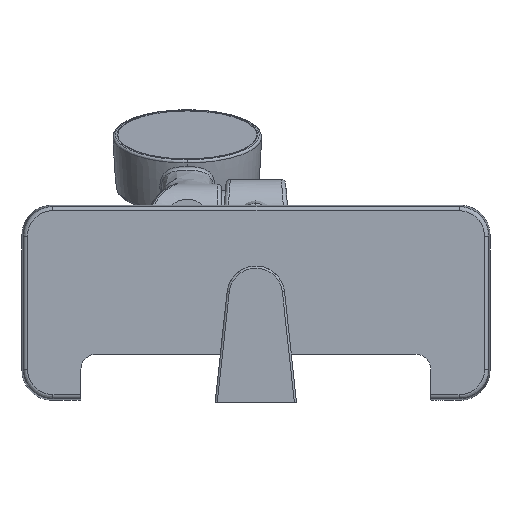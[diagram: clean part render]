
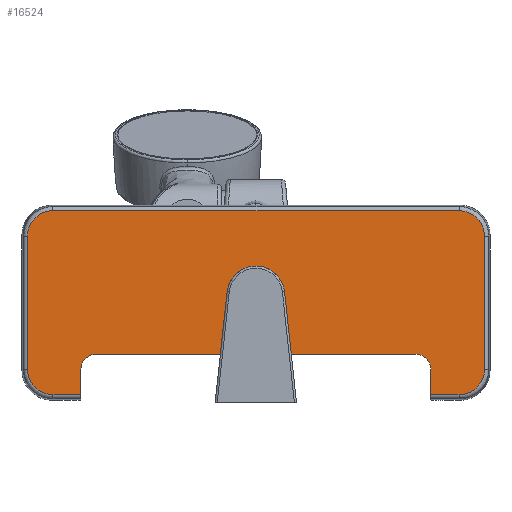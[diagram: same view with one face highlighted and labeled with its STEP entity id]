
A CAD part, front view. The second image highlights one B-rep face of the part: STEP entity #16524.
In plain terms, the highlighted planar face has unit normal (0, -1, 0).
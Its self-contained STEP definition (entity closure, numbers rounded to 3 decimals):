
#167 = DIRECTION ( 'NONE',  ( 1., 0., 0. ) ) ;
#333 = CIRCLE ( 'NONE', #15864, 7. ) ;
#839 = LINE ( 'NONE', #11197, #17612 ) ;
#1121 = VERTEX_POINT ( 'NONE', #5799 ) ;
#1234 = VERTEX_POINT ( 'NONE', #5609 ) ;
#1520 = DIRECTION ( 'NONE',  ( 0., 0., -1. ) ) ;
#2239 = AXIS2_PLACEMENT_3D ( 'NONE', #2681, #15534, #4513 ) ;
#2331 = ORIENTED_EDGE ( 'NONE', *, *, #5607, .T. ) ;
#2459 = CARTESIAN_POINT ( 'NONE',  ( 75.32, -316.95, 22.535 ) ) ;
#2555 = EDGE_CURVE ( 'NONE', #14512, #16308, #333, .T. ) ;
#2681 = CARTESIAN_POINT ( 'NONE',  ( -75.32, -316.95, 15.535 ) ) ;
#2843 = AXIS2_PLACEMENT_3D ( 'NONE', #17478, #6607, #19213 ) ;
#3845 = VERTEX_POINT ( 'NONE', #21700 ) ;
#3970 = CARTESIAN_POINT ( 'NONE',  ( -82.32, -316.95, 0.5 ) ) ;
#3979 = LINE ( 'NONE', #3970, #20127 ) ;
#4125 = ORIENTED_EDGE ( 'NONE', *, *, #21496, .T. ) ;
#4203 = CARTESIAN_POINT ( 'NONE',  ( 107.646, -316.95, 85.148 ) ) ;
#4328 = EDGE_LOOP ( 'NONE', ( #10529, #6825, #17000, #12296, #10104, #9655, #12016, #2331, #13304, #15170, #7150, #14703, #4125, #22111 ) ) ;
#4403 = CARTESIAN_POINT ( 'NONE',  ( -95.472, -316.95, 90.117 ) ) ;
#4435 = VERTEX_POINT ( 'NONE', #18019 ) ;
#4513 = DIRECTION ( 'NONE',  ( 0., 0., 1. ) ) ;
#4719 = PLANE ( 'NONE',  #2843 ) ;
#4993 = CARTESIAN_POINT ( 'NONE',  ( 82.32, -316.95, 0.5 ) ) ;
#5070 = CARTESIAN_POINT ( 'NONE',  ( 107.646, -316.95, 78.119 ) ) ;
#5607 = EDGE_CURVE ( 'NONE', #18101, #8294, #839, .T. ) ;
#5609 = CARTESIAN_POINT ( 'NONE',  ( -107.47, -316.95, 78.119 ) ) ;
#5799 = CARTESIAN_POINT ( 'NONE',  ( 95.648, -316.95, 90.117 ) ) ;
#5912 = CARTESIAN_POINT ( 'NONE',  ( 95.648, -316.95, 3.508 ) ) ;
#6005 = CARTESIAN_POINT ( 'NONE',  ( 107.646, -316.95, 0.5 ) ) ;
#6058 = EDGE_CURVE ( 'NONE', #16308, #18101, #17398, .T. ) ;
#6234 = DIRECTION ( 'NONE',  ( 0., 0., 1. ) ) ;
#6236 = DIRECTION ( 'NONE',  ( 0., 1., 0. ) ) ;
#6265 = CARTESIAN_POINT ( 'NONE',  ( 75.32, -316.95, 15.535 ) ) ;
#6583 = CARTESIAN_POINT ( 'NONE',  ( -107.47, -316.95, 85.148 ) ) ;
#6607 = DIRECTION ( 'NONE',  ( 0., 1., 0. ) ) ;
#6825 = ORIENTED_EDGE ( 'NONE', *, *, #21306, .T. ) ;
#7150 = ORIENTED_EDGE ( 'NONE', *, *, #21437, .T. ) ;
#7242 =( BOUNDED_CURVE ( )  B_SPLINE_CURVE ( 3, ( #15710, #15626, #6583, #19190 ),
 .UNSPECIFIED., .F., .F. ) 
 B_SPLINE_CURVE_WITH_KNOTS ( ( 4, 4 ),
 ( 2.356, 3.927 ),
 .UNSPECIFIED. ) 
 CURVE ( )  GEOMETRIC_REPRESENTATION_ITEM ( )  RATIONAL_B_SPLINE_CURVE ( ( 1., 0.805, 0.805, 1. ) ) 
 REPRESENTATION_ITEM ( '' )  );
#7244 = CARTESIAN_POINT ( 'NONE',  ( -107.47, -316.95, 15.506 ) ) ;
#7489 = LINE ( 'NONE', #17453, #14092 ) ;
#7559 = DIRECTION ( 'NONE',  ( 0., 0., 1. ) ) ;
#8073 =( BOUNDED_CURVE ( )  B_SPLINE_CURVE ( 3, ( #13602, #4203, #9980, #22324 ),
 .UNSPECIFIED., .F., .F. ) 
 B_SPLINE_CURVE_WITH_KNOTS ( ( 4, 4 ),
 ( 2.356, 3.927 ),
 .UNSPECIFIED. ) 
 CURVE ( )  GEOMETRIC_REPRESENTATION_ITEM ( )  RATIONAL_B_SPLINE_CURVE ( ( 1., 0.805, 0.805, 1. ) ) 
 REPRESENTATION_ITEM ( '' )  );
#8294 = VERTEX_POINT ( 'NONE', #15879 ) ;
#8313 = VECTOR ( 'NONE', #8329, 1000. ) ;
#8329 = DIRECTION ( 'NONE',  ( 0., 0., -1. ) ) ;
#8874 = LINE ( 'NONE', #10739, #10306 ) ;
#9428 = CARTESIAN_POINT ( 'NONE',  ( -107.47, -316.95, 15.506 ) ) ;
#9648 = CARTESIAN_POINT ( 'NONE',  ( 107.646, -316.95, 15.506 ) ) ;
#9655 = ORIENTED_EDGE ( 'NONE', *, *, #2555, .T. ) ;
#9782 = LINE ( 'NONE', #17227, #12963 ) ;
#9806 = LINE ( 'NONE', #13059, #20101 ) ;
#9980 = CARTESIAN_POINT ( 'NONE',  ( 102.677, -316.95, 90.117 ) ) ;
#10104 = ORIENTED_EDGE ( 'NONE', *, *, #13557, .T. ) ;
#10143 = DIRECTION ( 'NONE',  ( -1., 0., 0. ) ) ;
#10306 = VECTOR ( 'NONE', #17789, 1000. ) ;
#10529 = ORIENTED_EDGE ( 'NONE', *, *, #21279, .T. ) ;
#10739 = CARTESIAN_POINT ( 'NONE',  ( 0., -316.95, 22.535 ) ) ;
#11087 = CARTESIAN_POINT ( 'NONE',  ( 82.32, -316.95, 15.535 ) ) ;
#11122 = CARTESIAN_POINT ( 'NONE',  ( -95.472, -316.95, 3.508 ) ) ;
#11169 = FACE_OUTER_BOUND ( 'NONE', #4328, .T. ) ;
#11197 = CARTESIAN_POINT ( 'NONE',  ( 0., -316.95, 3.508 ) ) ;
#11255 = DIRECTION ( 'NONE',  ( 1., 0., 0. ) ) ;
#12016 = ORIENTED_EDGE ( 'NONE', *, *, #6058, .T. ) ;
#12296 = ORIENTED_EDGE ( 'NONE', *, *, #15250, .T. ) ;
#12963 = VECTOR ( 'NONE', #10143, 1000. ) ;
#13044 =( BOUNDED_CURVE ( )  B_SPLINE_CURVE ( 3, ( #7244, #16474, #21679, #11122 ),
 .UNSPECIFIED., .F., .T. ) 
 B_SPLINE_CURVE_WITH_KNOTS ( ( 4, 4 ),
 ( 2.356, 3.927 ),
 .UNSPECIFIED. ) 
 CURVE ( )  GEOMETRIC_REPRESENTATION_ITEM ( )  RATIONAL_B_SPLINE_CURVE ( ( 1., 0.805, 0.805, 1. ) ) 
 REPRESENTATION_ITEM ( '' )  );
#13059 = CARTESIAN_POINT ( 'NONE',  ( 0., -316.95, 3.508 ) ) ;
#13155 = VERTEX_POINT ( 'NONE', #4403 ) ;
#13304 = ORIENTED_EDGE ( 'NONE', *, *, #21360, .T. ) ;
#13557 = EDGE_CURVE ( 'NONE', #19856, #14512, #8874, .T. ) ;
#13571 = CARTESIAN_POINT ( 'NONE',  ( -95.472, -316.95, 3.508 ) ) ;
#13602 = CARTESIAN_POINT ( 'NONE',  ( 107.646, -316.95, 78.119 ) ) ;
#14014 = CARTESIAN_POINT ( 'NONE',  ( 107.646, -316.95, 15.506 ) ) ;
#14092 = VECTOR ( 'NONE', #1520, 1000. ) ;
#14512 = VERTEX_POINT ( 'NONE', #2459 ) ;
#14703 = ORIENTED_EDGE ( 'NONE', *, *, #21472, .T. ) ;
#14857 = CIRCLE ( 'NONE', #2239, 7. ) ;
#15000 = VERTEX_POINT ( 'NONE', #13571 ) ;
#15170 = ORIENTED_EDGE ( 'NONE', *, *, #21400, .T. ) ;
#15250 = EDGE_CURVE ( 'NONE', #4435, #19856, #14857, .T. ) ;
#15534 = DIRECTION ( 'NONE',  ( 0., 1., 0. ) ) ;
#15626 = CARTESIAN_POINT ( 'NONE',  ( -102.501, -316.95, 90.117 ) ) ;
#15710 = CARTESIAN_POINT ( 'NONE',  ( -95.472, -316.95, 90.117 ) ) ;
#15782 = LINE ( 'NONE', #6005, #16819 ) ;
#15864 = AXIS2_PLACEMENT_3D ( 'NONE', #6265, #6236, #6234 ) ;
#15879 = CARTESIAN_POINT ( 'NONE',  ( 95.648, -316.95, 3.508 ) ) ;
#16308 = VERTEX_POINT ( 'NONE', #11087 ) ;
#16474 = CARTESIAN_POINT ( 'NONE',  ( -107.47, -316.95, 8.477 ) ) ;
#16524 = ADVANCED_FACE ( 'NONE', ( #11169 ), #4719, .F. ) ;
#16560 = VERTEX_POINT ( 'NONE', #14014 ) ;
#16819 = VECTOR ( 'NONE', #16931, 1000. ) ;
#16931 = DIRECTION ( 'NONE',  ( 0., 0., 1. ) ) ;
#17000 = ORIENTED_EDGE ( 'NONE', *, *, #21332, .T. ) ;
#17227 = CARTESIAN_POINT ( 'NONE',  ( 0., -316.95, 90.117 ) ) ;
#17398 = LINE ( 'NONE', #4993, #8313 ) ;
#17453 = CARTESIAN_POINT ( 'NONE',  ( -107.47, -316.95, 0.5 ) ) ;
#17478 = CARTESIAN_POINT ( 'NONE',  ( 0., -316.95, 0.5 ) ) ;
#17612 = VECTOR ( 'NONE', #11255, 1000. ) ;
#17789 = DIRECTION ( 'NONE',  ( 1., 0., 0. ) ) ;
#17851 =( BOUNDED_CURVE ( )  B_SPLINE_CURVE ( 3, ( #5912, #18586, #20322, #9648 ),
 .UNSPECIFIED., .F., .F. ) 
 B_SPLINE_CURVE_WITH_KNOTS ( ( 4, 4 ),
 ( 2.356, 3.927 ),
 .UNSPECIFIED. ) 
 CURVE ( )  GEOMETRIC_REPRESENTATION_ITEM ( )  RATIONAL_B_SPLINE_CURVE ( ( 1., 0.805, 0.805, 1. ) ) 
 REPRESENTATION_ITEM ( '' )  );
#18019 = CARTESIAN_POINT ( 'NONE',  ( -82.32, -316.95, 15.535 ) ) ;
#18101 = VERTEX_POINT ( 'NONE', #21509 ) ;
#18586 = CARTESIAN_POINT ( 'NONE',  ( 102.677, -316.95, 3.508 ) ) ;
#18647 = CARTESIAN_POINT ( 'NONE',  ( -75.32, -316.95, 22.535 ) ) ;
#19190 = CARTESIAN_POINT ( 'NONE',  ( -107.47, -316.95, 78.119 ) ) ;
#19213 = DIRECTION ( 'NONE',  ( 0., 0., 1. ) ) ;
#19856 = VERTEX_POINT ( 'NONE', #18647 ) ;
#20101 = VECTOR ( 'NONE', #167, 1000. ) ;
#20127 = VECTOR ( 'NONE', #7559, 1000. ) ;
#20184 = VERTEX_POINT ( 'NONE', #5070 ) ;
#20322 = CARTESIAN_POINT ( 'NONE',  ( 107.646, -316.95, 8.477 ) ) ;
#21279 = EDGE_CURVE ( 'NONE', #21803, #15000, #13044, .T. ) ;
#21306 = EDGE_CURVE ( 'NONE', #15000, #3845, #9806, .T. ) ;
#21332 = EDGE_CURVE ( 'NONE', #3845, #4435, #3979, .T. ) ;
#21360 = EDGE_CURVE ( 'NONE', #8294, #16560, #17851, .T. ) ;
#21400 = EDGE_CURVE ( 'NONE', #16560, #20184, #15782, .T. ) ;
#21437 = EDGE_CURVE ( 'NONE', #20184, #1121, #8073, .T. ) ;
#21472 = EDGE_CURVE ( 'NONE', #1121, #13155, #9782, .T. ) ;
#21496 = EDGE_CURVE ( 'NONE', #13155, #1234, #7242, .T. ) ;
#21509 = CARTESIAN_POINT ( 'NONE',  ( 82.32, -316.95, 3.508 ) ) ;
#21533 = EDGE_CURVE ( 'NONE', #1234, #21803, #7489, .T. ) ;
#21679 = CARTESIAN_POINT ( 'NONE',  ( -102.501, -316.95, 3.508 ) ) ;
#21700 = CARTESIAN_POINT ( 'NONE',  ( -82.32, -316.95, 3.508 ) ) ;
#21803 = VERTEX_POINT ( 'NONE', #9428 ) ;
#22111 = ORIENTED_EDGE ( 'NONE', *, *, #21533, .T. ) ;
#22324 = CARTESIAN_POINT ( 'NONE',  ( 95.648, -316.95, 90.117 ) ) ;
